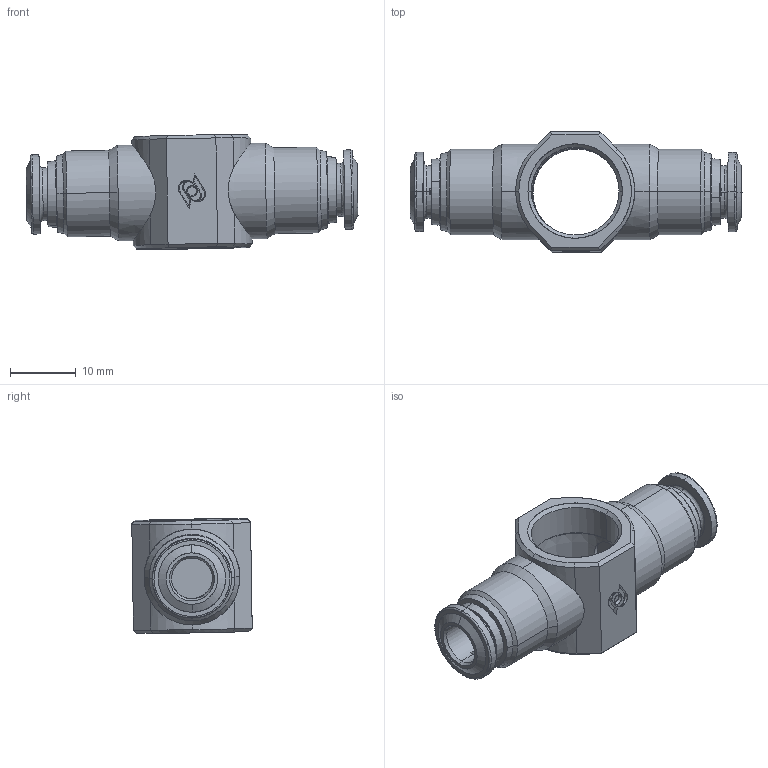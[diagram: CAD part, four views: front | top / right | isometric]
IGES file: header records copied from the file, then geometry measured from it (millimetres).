
Start section: SolidWorks IGES file using analytic representation for surfaces
Global section: file name: K:\Disegni Esecutivi\Serie 57000\ASSIEMI_57000\57510\ASSIEMI_PIENI_57510\5751000005.IGS; native system: SolidWorks 2008; preprocessor: SolidWorks 2008; author: cad02; date: 080218.084315; units: millimetre
Bounding box: 50.32 x 18.25 x 17.37 mm (x, y, z)
Surface area: 3716.2 mm2 (no closed solid volume)
Topology: 0 solids, 0 shells, 174 faces, 2228 edges, 2228 vertices
Faces by surface type: revolution 98, bspline 76
